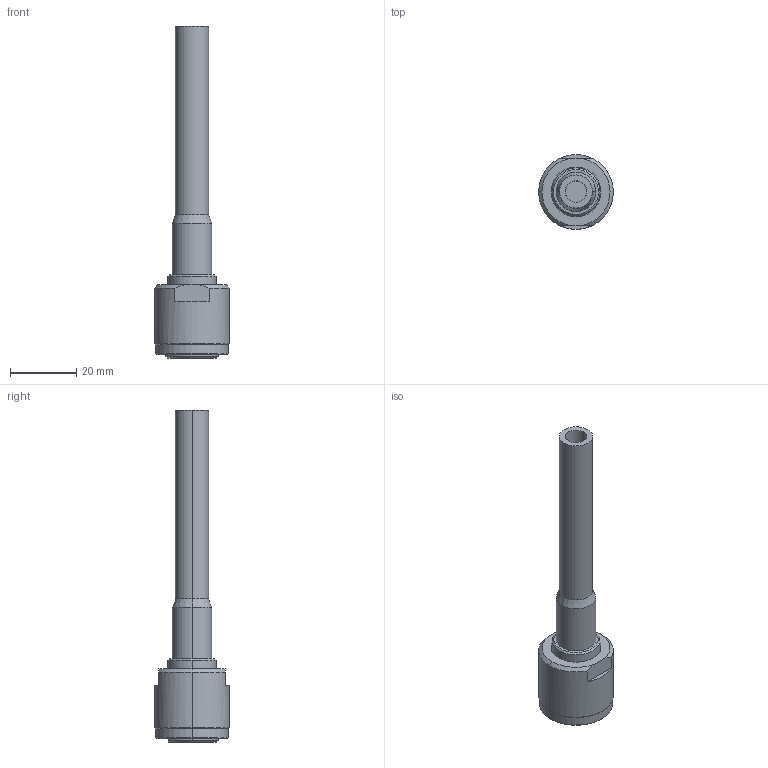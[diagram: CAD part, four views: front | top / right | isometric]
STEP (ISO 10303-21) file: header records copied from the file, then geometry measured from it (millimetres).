
FILE_DESCRIPTION (( 'STEP AP203' ), '1' );
FILE_NAME ('C14-1210HX Cable 10 Pin Hybrid.STEP', '2025-09-25T14:21:51', ( '' ), ( '' ), 'SwSTEP 2.0', 'SolidWorks 2024', '' );
FILE_SCHEMA (( 'CONFIG_CONTROL_DESIGN' ));
Length unit declared in the file: millimetre
Products named in the file (1): C14-1210HX Cable 10 Pin Hybrid
Bounding box: 22.5 x 22.5 x 100 mm (x, y, z)
Volume: 10890.3 mm3; surface area: 9947.4 mm2
Topology: 3 solids, 11 shells, 284 faces, 596 edges, 368 vertices
Faces by surface type: cylinder 133, cone 69, plane 63, torus 16, bspline 3
Entity records: 8985 total; most frequent: CARTESIAN_POINT 2640, DIRECTION 1451, ORIENTED_EDGE 1192, AXIS2_PLACEMENT_3D 619, EDGE_CURVE 596, VERTEX_POINT 368, EDGE_LOOP 338, CIRCLE 337
